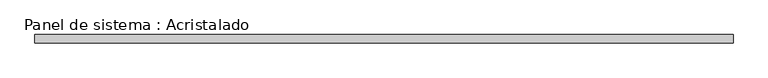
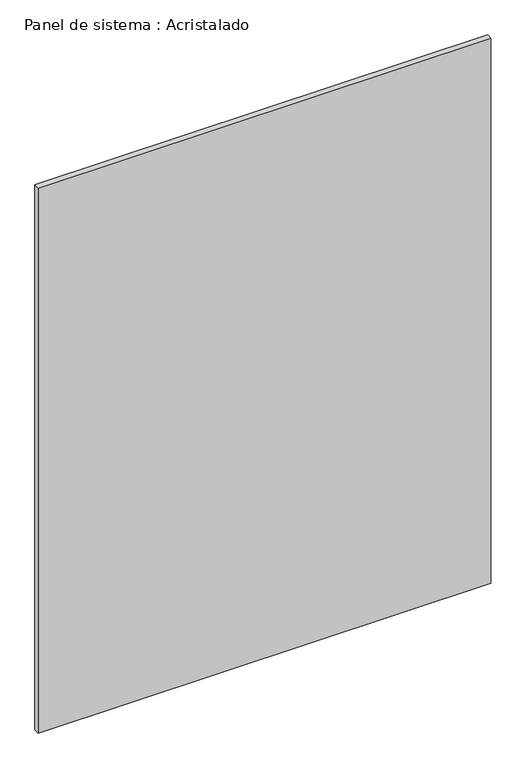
"""IFC4 building model written with IfcOpenShell, lengths in millimetres: plate geometry, Panel de sistema : Acristalado."""

import ifcopenshell
import ifcopenshell.guid

model = None  # the IFC model being written
_history = None  # IfcOwnerHistory: only IFC2X3 demands one
_inside = {}  # id of a spatial element -> (the spatial element, [elements in it])
_under = {}  # id of a project, library or spatial element -> (it, [spatial elements below it])
_declared = {}  # id of a project -> (the project, [libraries it declares])
_typed = {}  # id of a type object -> (the type object, [elements of that type])
_made_of = {}  # id of a material, layer set ... -> (it, [elements and type objects made of it])


def new_model(schema):
    """Start an empty IFC model of exactly this schema.

    Asked for "IFC4X3", IfcOpenShell would pick the latest addendum, in which some entities
    have other attributes; the version numbers below select the first issue.
    IFC2X3 requires an IfcOwnerHistory on every rooted entity: one is made here for all.
    """
    global model, _history
    if schema == "IFC4X3":
        model = ifcopenshell.file(schema_version=(4, 3, 0, 0))
    else:
        model = ifcopenshell.file(schema=schema)
    _inside.clear()
    _under.clear()
    _declared.clear()
    _typed.clear()
    _made_of.clear()
    _history = None
    if model.schema == "IFC2X3":
        org = make("IfcOrganization", Name="unknown")
        user = make(
            "IfcPersonAndOrganization",
            ThePerson=make("IfcPerson", FamilyName="unknown"),
            TheOrganization=org,
        )
        app = make(
            "IfcApplication",
            ApplicationDeveloper=org,
            Version="unknown",
            ApplicationFullName="unknown",
            ApplicationIdentifier="unknown",
        )
        _history = make(
            "IfcOwnerHistory",
            OwningUser=user,
            OwningApplication=app,
            ChangeAction="ADDED",
            CreationDate=0,
        )
    return model


def make(cls, **values):
    """One entity of the class cls with the attributes given. An attribute that is None is left unset."""
    return model.create_entity(
        cls, **{name: value for name, value in values.items() if value is not None}
    )


def rooted(cls, **values):
    """An entity with a GlobalId (a new one), such as an element, a storey or a relation."""
    return make(cls, GlobalId=ifcopenshell.guid.new(), OwnerHistory=_history, **values)


def si_unit(unit_type, name, prefix=None):
    """IfcSIUnit, for example si_unit("LENGTHUNIT", "METRE", prefix="MILLI")."""
    return make("IfcSIUnit", UnitType=unit_type, Prefix=prefix, Name=name)


def assignment(units):
    """IfcUnitAssignment: the units of a project."""
    return None if units is None else make("IfcUnitAssignment", Units=units)


def point(xyz):
    """IfcCartesianPoint."""
    return None if xyz is None else make("IfcCartesianPoint", Coordinates=xyz)


def direction(xyz):
    """IfcDirection."""
    return None if xyz is None else make("IfcDirection", DirectionRatios=xyz)


def frame(location, z_axis=None, x_axis=None):
    """IfcAxis2Placement3D, a coordinate frame: its origin and axes. An axis left out is left unset."""
    return make(
        "IfcAxis2Placement3D",
        Location=point(location),
        Axis=direction(z_axis),
        RefDirection=direction(x_axis),
    )


def origin():
    """The frame at (0, 0, 0) with its axes left unset."""
    return frame((0.0, 0.0, 0.0))


def origin_with_axes():
    """The frame at (0, 0, 0) with the z axis (0, 0, 1) and the x axis (1, 0, 0) written out."""
    return frame((0.0, 0.0, 0.0), z_axis=(0.0, 0.0, 1.0), x_axis=(1.0, 0.0, 0.0))


def place(relative_to, where):
    """IfcLocalPlacement: puts the frame where relative to a parent placement (None: the world)."""
    return make(
        "IfcLocalPlacement", PlacementRelTo=relative_to, RelativePlacement=where
    )


def context(
    kind, dimensions, precision=None, world=None, true_north=None, identifier=None
):
    """IfcGeometricRepresentationContext, for example the 3D "Model" context."""
    return make(
        "IfcGeometricRepresentationContext",
        ContextIdentifier=identifier,
        ContextType=kind,
        CoordinateSpaceDimension=dimensions,
        Precision=precision,
        WorldCoordinateSystem=world,
        TrueNorth=true_north,
    )


def project(units=None, contexts=None):
    """IfcProject with its units and contexts."""
    return rooted(
        "IfcProject",
        Name="project",
        RepresentationContexts=contexts,
        UnitsInContext=assignment(units),
    )


def spatial(cls, under=None, at=None, **own):
    """A site, building, storey or space (cls), placed at a placement, below another one or the project."""
    s = rooted(cls, ObjectPlacement=at, **own)
    if under is not None:
        _under.setdefault(under.id(), (under, []))[1].append(s)
    return s


def polyline(points):
    """IfcPolyline through the points."""
    return make("IfcPolyline", Points=[point(p) for p in points])


def outline(outer, holes=None, kind="AREA"):
    """IfcArbitraryClosedProfileDef: a profile drawn as a closed curve; with holes, ...WithVoids."""
    if holes is None:
        return make("IfcArbitraryClosedProfileDef", ProfileType=kind, OuterCurve=outer)
    return make(
        "IfcArbitraryProfileDefWithVoids",
        ProfileType=kind,
        OuterCurve=outer,
        InnerCurves=holes,
    )


def extrude(swept, where, along, depth):
    """IfcExtrudedAreaSolid: the profile swept, set in the frame where, extruded along a direction by depth."""
    return make(
        "IfcExtrudedAreaSolid",
        SweptArea=swept,
        Position=where,
        ExtrudedDirection=direction(along),
        Depth=depth,
    )


def shape(context_of_items, identifier, shape_type, items):
    """IfcShapeRepresentation: the items that make up one representation, for example the "Body"."""
    return make(
        "IfcShapeRepresentation",
        ContextOfItems=context_of_items,
        RepresentationIdentifier=identifier,
        RepresentationType=shape_type,
        Items=items,
    )


def source(mapping_origin, context_of_items, identifier, shape_type, items):
    """IfcRepresentationMap: a shape defined once, which mapped items show again and again."""
    return make(
        "IfcRepresentationMap",
        MappingOrigin=mapping_origin,
        MappedRepresentation=shape(context_of_items, identifier, shape_type, items),
    )


def transform(
    local_origin,
    x_axis=None,
    y_axis=None,
    z_axis=None,
    scale=None,
    scale2=None,
    scale3=None,
    uniform=True,
):
    """IfcCartesianTransformationOperator3D, or its non-uniform kind. x_axis, y_axis, z_axis: its Axis1, 2, 3."""
    if uniform:
        return make(
            "IfcCartesianTransformationOperator3D",
            Axis1=direction(x_axis),
            Axis2=direction(y_axis),
            LocalOrigin=point(local_origin),
            Scale=scale,
            Axis3=direction(z_axis),
        )
    return make(
        "IfcCartesianTransformationOperator3DnonUniform",
        Axis1=direction(x_axis),
        Axis2=direction(y_axis),
        LocalOrigin=point(local_origin),
        Scale=scale,
        Axis3=direction(z_axis),
        Scale2=scale2,
        Scale3=scale3,
    )


def mapped(mapping_source, mapping_target):
    """IfcMappedItem: shows the shape of a source again, moved by a transform."""
    return make(
        "IfcMappedItem", MappingSource=mapping_source, MappingTarget=mapping_target
    )


def made_of(thing, what):
    """Note that an element or type object is made of a material, layer set ...; save() writes the relation."""
    if what is not None:
        _made_of.setdefault(what.id(), (what, []))[1].append(thing)
    return thing


def element(
    cls,
    number,
    at=None,
    inside=None,
    cuts=None,
    type_object=None,
    material=None,
    context=None,
    identifier="Body",
    shape_type=None,
    held_by="IfcProductDefinitionShape",
    body=None,
    shapes=None,
    **own,
):
    """One element of the class cls, such as IfcWall. Its Tag is "e" and its number.

    at: its placement. inside: the storey or other place that contains it. cuts: it is an
    opening in that element (IfcRelVoidsElement). A single representation is given by context,
    identifier, shape_type and body (its items); several are given by shapes. held_by: the class
    of the entity that holds the representations. save() writes the other relations.
    """
    e = rooted(cls, Tag="e%d" % number, ObjectPlacement=at, **own)
    if body is not None:
        shapes = [shape(context, identifier, shape_type, body)]
    if shapes is not None:
        e.Representation = make(held_by, Representations=shapes)
    if inside is not None:
        _inside.setdefault(inside.id(), (inside, []))[1].append(e)
    if cuts is not None:
        rooted(
            "IfcRelVoidsElement", RelatingBuildingElement=cuts, RelatedOpeningElement=e
        )
    if type_object is not None:
        _typed.setdefault(type_object.id(), (type_object, []))[1].append(e)
    return made_of(e, material)


def aggregate(whole, parts):
    """IfcRelAggregates: a whole, such as a stair, and the parts it consists of."""
    return rooted("IfcRelAggregates", RelatingObject=whole, RelatedObjects=parts)


def save(model, path):
    """Write the relations noted so far, then the file.

    IfcRelAggregates (storeys below a building ...), IfcRelContainedInSpatialStructure (elements
    in a storey), IfcRelDefinesByType, IfcRelAssociatesMaterial and IfcRelDeclares: one each for
    every whole, place, type object, material and project.
    """
    for whole, parts in _under.values():
        aggregate(whole, parts)
    for where, things in _inside.values():
        rooted(
            "IfcRelContainedInSpatialStructure",
            RelatedElements=things,
            RelatingStructure=where,
        )
    for kind, things in _typed.values():
        rooted("IfcRelDefinesByType", RelatedObjects=things, RelatingType=kind)
    for what, things in _made_of.values():
        rooted("IfcRelAssociatesMaterial", RelatedObjects=things, RelatingMaterial=what)
    for by, libraries in _declared.values():
        rooted("IfcRelDeclares", RelatingContext=by, RelatedDefinitions=libraries)
    model.write(path)


def panel_de_sistema_acristalado_f2764a35(model_context):
    return source(origin(), model_context, "Body", "SweptSolid", [
        extrude(outline(polyline([(825.0, -10.0), (-825.0, -10.0), (-825.0, 10.0), (825.0, 10.0), (825.0, -10.0)])), origin_with_axes(), (0.0, 0.0, 1.0), 2100.0),
    ])


if __name__ == "__main__":
    model = new_model("IFC4")
    model_context = context("Model", 3, world=origin())
    ifc_project = project(units=[si_unit("LENGTHUNIT", "METRE", prefix="MILLI")], contexts=[model_context])
    site = spatial("IfcSite", under=ifc_project)
    building = spatial("IfcBuilding", under=site)
    placement = place(None, origin())
    panel_de_sistema_acristalado_shape = panel_de_sistema_acristalado_f2764a35(model_context)
    element("IfcPlate", 1, ObjectType="Panel de sistema : Acristalado", at=placement, inside=building, context=model_context, shape_type="MappedRepresentation", body=[
        mapped(panel_de_sistema_acristalado_shape, transform((0.0, 0.0, 0.0), x_axis=(1.0, 0.0, 0.0), y_axis=(0.0, 1.0, 0.0), z_axis=(0.0, 0.0, 1.0))),
    ])
    save(model, "model.ifc")
